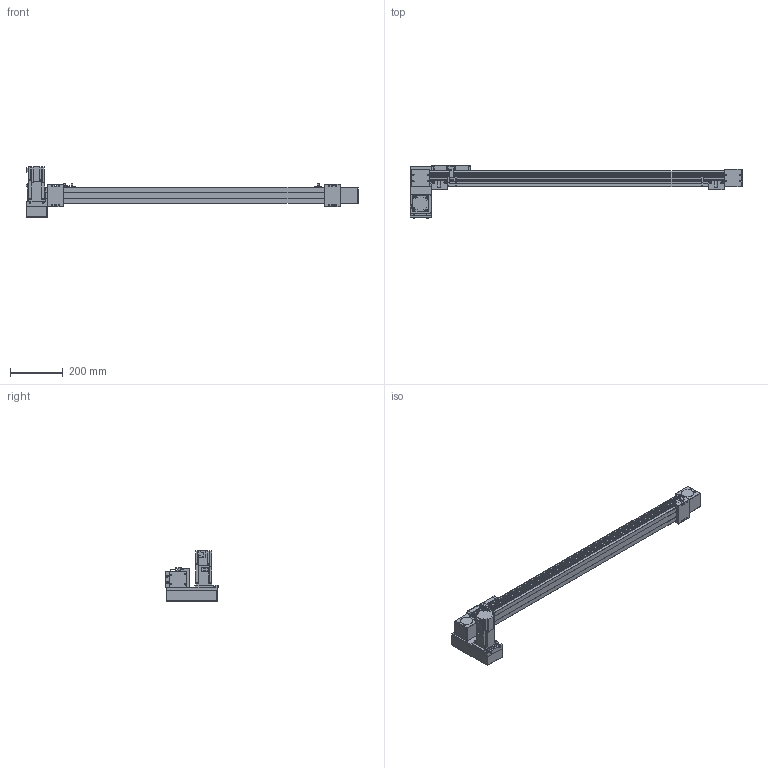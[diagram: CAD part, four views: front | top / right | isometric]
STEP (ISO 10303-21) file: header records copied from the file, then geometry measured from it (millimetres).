
FILE_DESCRIPTION(/* description */ ('STEP AP214'),/* implementation_level */ '2;1');
FILE_NAME(/* name */ 'SK60-P13-S950-LD-T40-C1-N(0)',/* time_stamp */ '2023-04-06T04:38:34+02:00',/* author */ ('License CC BY-ND 4.0'),/* organization */ ('CADENAS'),/* preprocessor_version */ 'ST-DEVELOPER v19.3',/* originating_system */ 'PARTsolutions',/* authorisation */ ' ');
FILE_SCHEMA (('AUTOMOTIVE_DESIGN {1 0 10303 214 3 1 1}'));
Length unit declared in the file: millimetre
Products named in the file (10): SK60-P13-S950-LD-T40-C1-N(0); PSC140-sensor; SK60-S450_seat; SK60-S450-BL-C1_slider; SK60_body3; SK60_body6; SK60-BL_body2; T40-p1; SK60-LD_fb; SK60-S950-LD-C1_body
Assembly tree (16 placements, depth 2):
  SK60-P13-S950-LD-T40-C1-N(0)
    PSC140-sensor  x3
    SK60-S450_seat  x2
    SK60-S450-BL-C1_slider
    SK60_body3  x3
    SK60_body6  x2
    SK60-BL_body2  x2
    T40-p1
    SK60-LD_fb
    SK60-S950-LD-C1_body
Bounding box: 1255.5 x 199 x 189.7 mm (x, y, z)
Volume: 5430269.5 mm3; surface area: 679036.5 mm2
Topology: 16 solids, 16 shells, 810 faces, 2048 edges, 1349 vertices
Faces by surface type: plane 524, cylinder 262, cone 22, torus 2
Full cylindrical faces by diameter (mm): 2.8 x3, 3.3 x4, 4 x2, 4.5 x30, 4.6 x3, 4.917 x16, 5 x6, 5.478 x4, 5.5 x19, 6.5 x4, 7 x2, 8 x4, 8.5 x4, 9.988 x4, 10 x8, 14 x1, 47 x3, 50 x2
Entity records: 18655 total; most frequent: DIRECTION 3184, CARTESIAN_POINT 3150, ORIENTED_EDGE 2940, EDGE_CURVE 1470, AXIS2_PLACEMENT_3D 1068, LINE 1048, VECTOR 1048, VERTEX_POINT 1034
